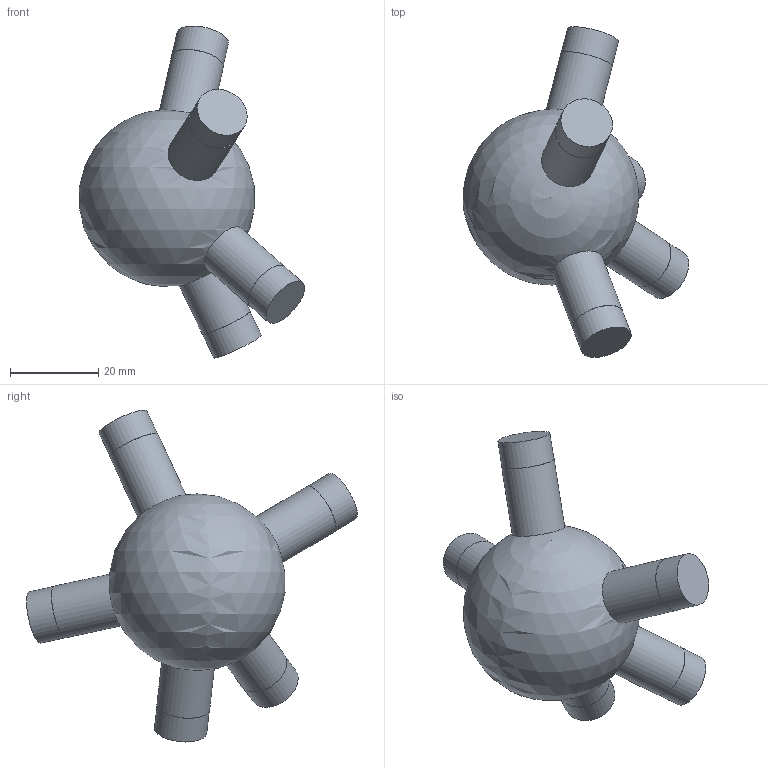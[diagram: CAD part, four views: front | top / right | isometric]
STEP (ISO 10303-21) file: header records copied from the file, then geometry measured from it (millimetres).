
FILE_DESCRIPTION(('Open CASCADE Model'),'2;1');
FILE_NAME('Open CASCADE Shape Model','2026-10-21T12:47:57',('Author'),( 'Open CASCADE'),'Open CASCADE STEP processor 7.9','Open CASCADE 7.9' ,'Unknown');
FILE_SCHEMA(('AUTOMOTIVE_DESIGN { 1 0 10303 214 1 1 1 1 }'));
Length unit declared in the file: millimetre
Products named in the file (1): Open CASCADE STEP translator 7.9 117
Bounding box: 51.03 x 74.94 x 75.17 mm (x, y, z)
Volume: 44667.6 mm3; surface area: 8829.2 mm2
Topology: 1 solids, 1 shells, 21 faces, 35 edges, 24 vertices
Faces by surface type: cylinder 10, plane 10, sphere 1
Full cylindrical faces by diameter (mm): 11.9 x5, 12 x5
Entity records: 1332 total; most frequent: CARTESIAN_POINT 538, DIRECTION 163, ORIENTED_EDGE 68, PCURVE 68, DEFINITIONAL_REPRESENTATION 68, LINE 56, VECTOR 56, AXIS2_PLACEMENT_3D 46
